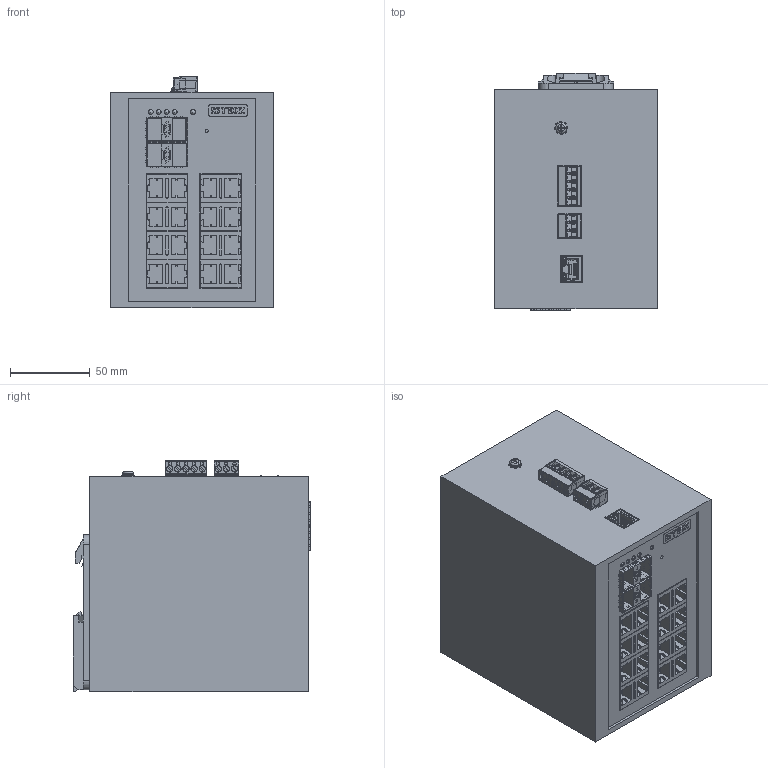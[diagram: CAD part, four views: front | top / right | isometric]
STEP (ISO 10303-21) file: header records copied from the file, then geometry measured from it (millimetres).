
FILE_DESCRIPTION(('TFLEX Exchange Step'),'2;1');
FILE_NAME('70110015_STEZ3216-4GSFP.stp', '2025-08-28T08:25:13+03:00',('YLedovskikh'),('Unknown organisation'),'TFLEX Exchange 2023.2','T-FLEX CAD','Unknown authorisation');
FILE_SCHEMA( ('AUTOMOTIVE_DESIGN { 1 0 10303 214 1 1 1 1 }') );
Length unit declared in the file: millimetre
Products named in the file (1): STEZ3216-4GSFP:1
Bounding box: 102 x 148.9 x 145.1 mm (x, y, z)
Volume: 1853029.6 mm3; surface area: 176837.7 mm2
Topology: 5 solids, 34 shells, 4358 faces, 12776 edges, 8408 vertices
Faces by surface type: plane 3210, cylinder 820, bspline 191, extrusion 80, cone 32, sphere 17, torus 8
Full cylindrical faces by diameter (mm): 1.3 x8, 2 x16, 3 x13, 3.821 x8, 4 x9, 4.4 x1, 6.8 x1
Entity records: 149330 total; most frequent: CARTESIAN_POINT 32035, ORIENTED_EDGE 25510, DIRECTION 22152, EDGE_CURVE 12755, VECTOR 10084, LINE 10004, VERTEX_POINT 8400, AXIS2_PLACEMENT_3D 6034
